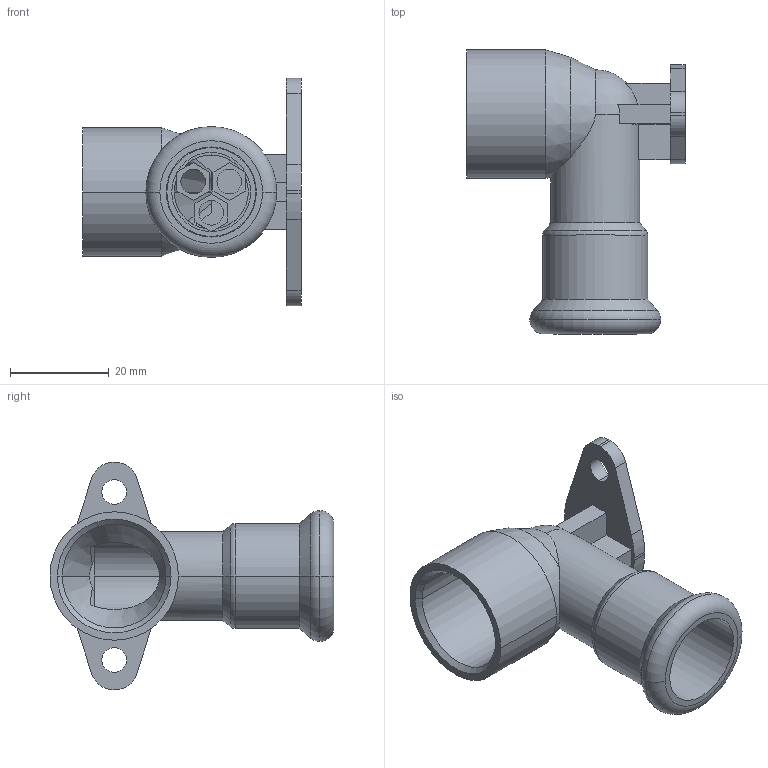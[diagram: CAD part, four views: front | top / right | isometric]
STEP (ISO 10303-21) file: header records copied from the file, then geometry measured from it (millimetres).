
FILE_DESCRIPTION(('OneSpaceDesigner STEP Export'),'2;1');
FILE_NAME('R2716 18xRp1-2.stp','2010-06-10T 9:50:52',(''),(''),'OneSpace Designer STEP processor for AP214 (Solid Model)','OneSpace Modeling 15.00A 14-Mar-2007 (C) CoCreate Software GmbH','');
FILE_SCHEMA(('AUTOMOTIVE_DESIGN { 1 0 10303 214 1 1 1 1 }'));
Length unit declared in the file: millimetre
Products named in the file (2): R2716_18xRp1-2
Assembly tree (1 placements, depth 2):
  R2716_18xRp1-2
    R2716_18xRp1-2
Bounding box: 44.2 x 57.5 x 46 mm (x, y, z)
Volume: 12026.4 mm3; surface area: 11407 mm2
Topology: 1 solids, 1 shells, 114 faces, 295 edges, 189 vertices
Faces by surface type: plane 56, cylinder 37, cone 12, torus 6, bspline 2, sphere 1
Entity records: 4888 total; most frequent: CARTESIAN_POINT 2217, ORIENTED_EDGE 588, DIRECTION 493, EDGE_CURVE 294, VERTEX_POINT 189, VECTOR 167, LINE 167, AXIS2_PLACEMENT_3D 163
